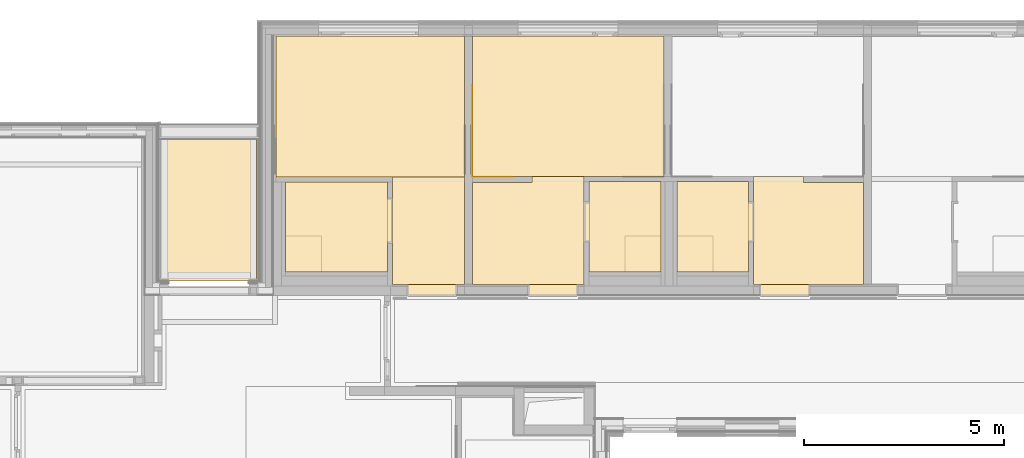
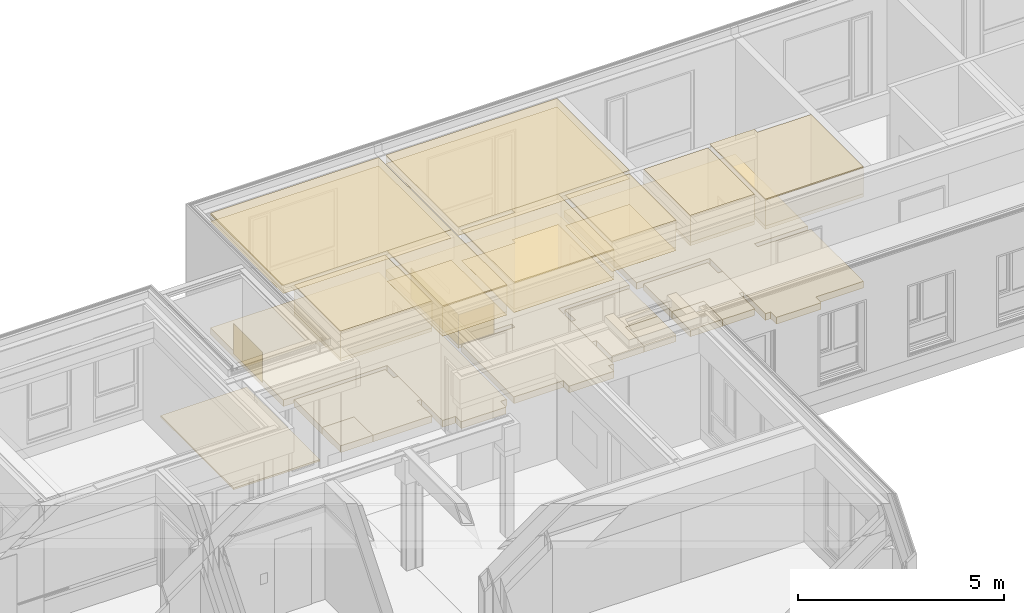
# One storey, part 188 of 207: 43 coverings.
"""IFC4 building model written with IfcOpenShell, lengths in metres."""

from ifc_helpers import new_model, entity, si_unit, converted_unit, derived_unit, frame, frame_2d, origin, origin_with_axes, place, context, subcontext, project, spatial, polyline, rectangle, outline, extrude, material, layer, layer_set, layer_usage, element, save


model = new_model("IFC4")

# Units and contexts
model_context = context("Model", 3, precision=1e-05, world=origin())
body_context = subcontext(model_context, "Body", "Model", "MODEL_VIEW")
ifc_project = project(units=[si_unit("LENGTHUNIT", "METRE"), si_unit("AREAUNIT", "SQUARE_METRE"), si_unit("VOLUMEUNIT", "CUBIC_METRE"), si_unit("MASSUNIT", "GRAM", prefix="KILO"), converted_unit("PLANEANGLEUNIT", "DEGREE", entity("IfcPlaneAngleMeasure", 0.0174532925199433), si_unit("PLANEANGLEUNIT", "RADIAN"), dimensions=[0, 0, 0, 0, 0, 0, 0]), derived_unit("THERMALTRANSMITTANCEUNIT", [(si_unit("POWERUNIT", "WATT"), 1), (si_unit("THERMODYNAMICTEMPERATUREUNIT", "KELVIN"), -1), (si_unit("LENGTHUNIT", "METRE"), -2)]), derived_unit("VOLUMETRICFLOWRATEUNIT", [(si_unit("LENGTHUNIT", "METRE"), 3), (converted_unit("TIMEUNIT", "hour", entity("IfcTimeMeasure", 3600.0), si_unit("TIMEUNIT", "SECOND"), dimensions=[0, 0, 1, 0, 0, 0, 0]), -1), (si_unit("LENGTHUNIT", "METRE"), -1)])], contexts=[model_context])

# Site, building, storey, space
site_placement = place(None, origin())
site = spatial("IfcSite", under=ifc_project, at=site_placement, Name="Psychiatrie Neubau Wunstorf", CompositionType="ELEMENT")
building_placement = place(site_placement, origin())
building = spatial("IfcBuilding", under=site, at=building_placement, Name="Neubau H2 Stationsgebäude", CompositionType="ELEMENT")
storey_placement = place(building_placement, frame((0.0, 0.0, -0.2)))
storey = spatial("IfcBuildingStorey", under=building, at=storey_placement, Name="H2 Ebene 0", CompositionType="ELEMENT", Elevation=-0.2)
space_1_placement = place(storey_placement, frame((81.225, 25.6995, 0.0)))
space_1 = spatial("IfcSpace", under=storey, at=space_1_placement, Name="WUN-H2-E00-070a", CompositionType="ELEMENT")

# Coverings
ifc_material_1 = material(Name="Fl1")
ifc_layer_1 = layer(ifc_material_1, 0.2)
ifc_layer_set_1 = layer_set([ifc_layer_1])
ifc_layer_usage_1 = layer_usage(ifc_layer_set_1, "AXIS3", "POSITIVE", 0.0)
covering_1_placement = place(space_1_placement, origin())
element("IfcCovering", 1, at=covering_1_placement, inside=space_1, material=ifc_layer_usage_1, Name="Fliesen", PredefinedType="FLOORING", context=body_context, shape_type="SweptSolid", body=[
    extrude(rectangle(XDim=0.125, YDim=1.01, at=frame_2d((-0.0625, -0.505), x_axis=(-1.0, 0.0))), frame((1.925, 1.76500000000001, 0.0), z_axis=(0.0, 0.0, 1.0), x_axis=(1.0, 0.0, 0.0)), (0.0, 0.0, 1.0), 0.2),
    extrude(outline(polyline([(0.0, 0.9), (0.899999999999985, 0.9), (0.899999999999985, 0.0), (1.79999999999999, 0.0), (1.80000000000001, 2.26500000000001), (0.0, 2.26500000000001), (0.0, 0.9)])), origin_with_axes(), (0.0, 0.0, 1.0), 0.2),
])
ifc_material_2 = material(Name="Fl2")
ifc_layer_2 = layer(ifc_material_2, 0.2)
ifc_layer_set_2 = layer_set([ifc_layer_2])
ifc_layer_usage_2 = layer_usage(ifc_layer_set_2, "AXIS3", "POSITIVE", 0.0)
covering_2_placement = place(space_1_placement, origin())
element("IfcCovering", 2, at=covering_2_placement, inside=space_1, material=ifc_layer_usage_2, Name="Fliesen Mosaik", PredefinedType="FLOORING", context=body_context, shape_type="SweptSolid", body=[
    extrude(rectangle(XDim=0.9, YDim=0.9, at=frame_2d((0.45, 0.45), x_axis=(1.0, 0.0))), origin_with_axes(), (0.0, 0.0, 1.0), 0.2),
])
ifc_material_3 = material()
ifc_layer_3 = layer(ifc_material_3, 0.036)
ifc_layer_set_3 = layer_set([ifc_layer_3])
ifc_layer_usage_3 = layer_usage(ifc_layer_set_3, "AXIS3", "POSITIVE", 0.0)
covering_3_placement = place(space_1_placement, frame((0.0, 0.0, 3.6)))
element("IfcCovering", 3, at=covering_3_placement, inside=space_1, material=ifc_layer_usage_3, Name="Gipsfaserplatten 2-lagig (BSK)", PredefinedType="CEILING", context=body_context, shape_type="SweptSolid", body=[
    extrude(rectangle(XDim=1.8, YDim=2.26500000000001, at=frame_2d((-0.899999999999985, -1.1325), x_axis=(-1.0, 0.0))), frame((1.8, 0.0, 0.0), z_axis=(0.0, 0.0, -1.0), x_axis=(1.0, 0.0, 0.0)), (0.0, 0.0, 1.0), 0.036),
])
ifc_material_4 = material(Name="Installationshöhe")
ifc_layer_4 = layer(ifc_material_4, 0.764)
ifc_layer_set_4 = layer_set([ifc_layer_4])
ifc_layer_usage_4 = layer_usage(ifc_layer_set_4, "AXIS3", "POSITIVE", 0.0)
covering_4_placement = place(space_1_placement, frame((0.0, 0.0, 3.564)))
element("IfcCovering", 4, at=covering_4_placement, inside=space_1, material=ifc_layer_usage_4, Name="Gipsfaserplatten 2-lagig (BSK)", PredefinedType="CEILING", context=body_context, shape_type="SweptSolid", body=[
    extrude(rectangle(XDim=1.8, YDim=2.26500000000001, at=frame_2d((-0.899999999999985, -1.1325), x_axis=(-1.0, 0.0))), frame((1.8, 0.0, 0.0), z_axis=(0.0, 0.0, -1.0), x_axis=(1.0, 0.0, 0.0)), (0.0, 0.0, 1.0), 0.764),
])
ifc_material_5 = material(Name="B")
ifc_layer_5 = layer(ifc_material_5, 0.1)
ifc_layer_set_5 = layer_set([ifc_layer_5])
ifc_layer_usage_5 = layer_usage(ifc_layer_set_5, "AXIS3", "POSITIVE", 0.0)
covering_5_placement = place(space_1_placement, frame((0.0, 0.0, 2.8)))
element("IfcCovering", 5, at=covering_5_placement, inside=space_1, material=ifc_layer_usage_5, Name="Gipskarton, imprägniert", PredefinedType="CEILING", context=body_context, shape_type="SweptSolid", body=[
    extrude(rectangle(XDim=1.8, YDim=2.26500000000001, at=frame_2d((-0.899999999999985, -1.1325), x_axis=(-1.0, 0.0))), frame((1.8, 0.0, 0.0), z_axis=(0.0, 0.0, -1.0), x_axis=(1.0, 0.0, 0.0)), (0.0, 0.0, 1.0), 0.1),
])
ifc_material_6 = material(Name="D1")
ifc_layer_6 = layer(ifc_material_6, 0.001)
ifc_layer_set_6 = layer_set([ifc_layer_6])
ifc_layer_usage_6 = layer_usage(ifc_layer_set_6, "AXIS3", "POSITIVE", 0.0)
covering_6_placement = place(space_1_placement, frame((0.0, 0.0, 2.7)))
element("IfcCovering", 6, at=covering_6_placement, inside=space_1, material=ifc_layer_usage_6, Name="Gipsfaserplatten 2-lagig (BSK)", PredefinedType="CEILING", context=body_context, shape_type="SweptSolid", body=[
    extrude(rectangle(XDim=1.8, YDim=2.26500000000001, at=frame_2d((-0.899999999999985, -1.1325), x_axis=(-1.0, 0.0))), frame((1.8, 0.0, 0.0), z_axis=(0.0, 0.0, -1.0), x_axis=(1.0, 0.0, 0.0)), (0.0, 0.0, 1.0), 0.001),
])

# Space
space_2_placement = place(storey_placement, frame((79.025, 25.6995, 0.0)))
space_2 = spatial("IfcSpace", under=storey, at=space_2_placement, Name="WUN-H2-E00-069a", CompositionType="ELEMENT")

# Coverings
ifc_material_7 = material(Name="Fl1")
ifc_layer_7 = layer(ifc_material_7, 0.2)
ifc_layer_set_7 = layer_set([ifc_layer_7])
ifc_layer_usage_7 = layer_usage(ifc_layer_set_7, "AXIS3", "POSITIVE", 0.0)
covering_7_placement = place(space_2_placement, frame((-0.124999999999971, 0.0, 0.0)))
element("IfcCovering", 7, at=covering_7_placement, inside=space_2, material=ifc_layer_usage_7, Name="Fliesen", PredefinedType="FLOORING", context=body_context, shape_type="SweptSolid", body=[
    extrude(rectangle(XDim=0.125, YDim=1.01, at=frame_2d((0.0625, 0.505), x_axis=(1.0, 0.0))), frame((0.0, 0.755000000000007, 0.0), z_axis=(0.0, 0.0, 1.0), x_axis=(1.0, 0.0, 0.0)), (0.0, 0.0, 1.0), 0.2),
    extrude(outline(polyline([(0.0, 0.0), (0.900000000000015, 0.0), (0.900000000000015, 0.900000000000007), (1.80000000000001, 0.900000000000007), (1.80000000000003, 2.26500000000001), (0.0, 2.26500000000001), (0.0, 0.0)])), frame((0.124999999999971, 0.0, 0.0), z_axis=(0.0, 0.0, 1.0), x_axis=(1.0, 0.0, 0.0)), (0.0, 0.0, 1.0), 0.2),
])
ifc_material_8 = material(Name="Fl2")
ifc_layer_8 = layer(ifc_material_8, 0.2)
ifc_layer_set_8 = layer_set([ifc_layer_8])
ifc_layer_usage_8 = layer_usage(ifc_layer_set_8, "AXIS3", "POSITIVE", 0.0)
covering_8_placement = place(space_2_placement, frame((0.900000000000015, 0.0, 0.0)))
element("IfcCovering", 8, at=covering_8_placement, inside=space_2, material=ifc_layer_usage_8, Name="Fliesen Mosaik", PredefinedType="FLOORING", context=body_context, shape_type="SweptSolid", body=[
    extrude(rectangle(XDim=0.9, YDim=0.9, at=frame_2d((-0.45, 0.45), x_axis=(0.0, 1.0))), frame((0.9, 0.0, 0.0), z_axis=(0.0, 0.0, 1.0), x_axis=(1.0, 0.0, 0.0)), (0.0, 0.0, 1.0), 0.2),
])
ifc_material_9 = material()
ifc_layer_9 = layer(ifc_material_9, 0.036)
ifc_layer_set_9 = layer_set([ifc_layer_9])
ifc_layer_usage_9 = layer_usage(ifc_layer_set_9, "AXIS3", "POSITIVE", 0.0)
covering_9_placement = place(space_2_placement, frame((0.0, 0.0, 3.6)))
element("IfcCovering", 9, at=covering_9_placement, inside=space_2, material=ifc_layer_usage_9, Name="Gipsfaserplatten 2-lagig (BSK)", PredefinedType="CEILING", context=body_context, shape_type="SweptSolid", body=[
    extrude(rectangle(XDim=1.8, YDim=2.26500000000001, at=frame_2d((0.899999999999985, 1.1325), x_axis=(1.0, 0.0))), frame((0.0, 2.26500000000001, 0.0), z_axis=(0.0, 0.0, -1.0), x_axis=(1.0, 0.0, 0.0)), (0.0, 0.0, 1.0), 0.036),
])
ifc_material_10 = material(Name="Installationshöhe")
ifc_layer_10 = layer(ifc_material_10, 0.764)
ifc_layer_set_10 = layer_set([ifc_layer_10])
ifc_layer_usage_10 = layer_usage(ifc_layer_set_10, "AXIS3", "POSITIVE", 0.0)
covering_10_placement = place(space_2_placement, frame((0.0, 0.0, 3.564)))
element("IfcCovering", 10, at=covering_10_placement, inside=space_2, material=ifc_layer_usage_10, Name="Gipsfaserplatten 2-lagig (BSK)", PredefinedType="CEILING", context=body_context, shape_type="SweptSolid", body=[
    extrude(rectangle(XDim=1.8, YDim=2.26500000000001, at=frame_2d((0.899999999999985, 1.1325), x_axis=(1.0, 0.0))), frame((0.0, 2.26500000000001, 0.0), z_axis=(0.0, 0.0, -1.0), x_axis=(1.0, 0.0, 0.0)), (0.0, 0.0, 1.0), 0.764),
])
ifc_material_11 = material(Name="B")
ifc_layer_11 = layer(ifc_material_11, 0.1)
ifc_layer_set_11 = layer_set([ifc_layer_11])
ifc_layer_usage_11 = layer_usage(ifc_layer_set_11, "AXIS3", "POSITIVE", 0.0)
covering_11_placement = place(space_2_placement, frame((0.0, 0.0, 2.8)))
element("IfcCovering", 11, at=covering_11_placement, inside=space_2, material=ifc_layer_usage_11, Name="Gipskarton, imprägniert", PredefinedType="CEILING", context=body_context, shape_type="SweptSolid", body=[
    extrude(rectangle(XDim=1.8, YDim=2.26500000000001, at=frame_2d((0.899999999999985, 1.1325), x_axis=(1.0, 0.0))), frame((0.0, 2.26500000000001, 0.0), z_axis=(0.0, 0.0, -1.0), x_axis=(1.0, 0.0, 0.0)), (0.0, 0.0, 1.0), 0.1),
])
ifc_material_12 = material(Name="D1")
ifc_layer_12 = layer(ifc_material_12, 0.001)
ifc_layer_set_12 = layer_set([ifc_layer_12])
ifc_layer_usage_12 = layer_usage(ifc_layer_set_12, "AXIS3", "POSITIVE", 0.0)
covering_12_placement = place(space_2_placement, frame((0.0, 0.0, 2.7)))
element("IfcCovering", 12, at=covering_12_placement, inside=space_2, material=ifc_layer_usage_12, Name="Gipsfaserplatten 2-lagig (BSK)", PredefinedType="CEILING", context=body_context, shape_type="SweptSolid", body=[
    extrude(rectangle(XDim=1.8, YDim=2.26500000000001, at=frame_2d((0.899999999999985, 1.1325), x_axis=(1.0, 0.0))), frame((0.0, 2.26500000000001, 0.0), z_axis=(0.0, 0.0, -1.0), x_axis=(1.0, 0.0, 0.0)), (0.0, 0.0, 1.0), 0.001),
])

# Space
space_3_placement = place(storey_placement, frame((71.421, 25.6995, 0.0)))
space_3 = spatial("IfcSpace", under=storey, at=space_3_placement, Name="WUN-H2-E00-068a", CompositionType="ELEMENT")

# Coverings
ifc_material_13 = material(Name="Fl1")
ifc_layer_13 = layer(ifc_material_13, 0.2)
ifc_layer_set_13 = layer_set([ifc_layer_13])
ifc_layer_usage_13 = layer_usage(ifc_layer_set_13, "AXIS3", "POSITIVE", 0.0)
covering_13_placement = place(space_3_placement, origin())
element("IfcCovering", 13, at=covering_13_placement, inside=space_3, material=ifc_layer_usage_13, Name="Fliesen", PredefinedType="FLOORING", context=body_context, shape_type="SweptSolid", body=[
    extrude(rectangle(XDim=0.125, YDim=1.135, at=frame_2d((-0.0625, -0.5675), x_axis=(-1.0, 0.0))), frame((2.67900000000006, 1.85799999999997, 0.0), z_axis=(0.0, 0.0, 1.0), x_axis=(1.0, 0.0, 0.0)), (0.0, 0.0, 1.0), 0.2),
    extrude(outline(polyline([(0.900000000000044, 0.0), (2.55400000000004, 0.0), (2.55400000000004, 2.25799999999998), (0.0, 2.25799999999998), (0.0, 0.899999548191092), (0.900000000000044, 0.899999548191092), (0.900000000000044, 0.0)])), origin_with_axes(), (0.0, 0.0, 1.0), 0.2),
])
ifc_material_14 = material(Name="Fl2")
ifc_layer_14 = layer(ifc_material_14, 0.2)
ifc_layer_set_14 = layer_set([ifc_layer_14])
ifc_layer_usage_14 = layer_usage(ifc_layer_set_14, "AXIS3", "POSITIVE", 0.0)
covering_14_placement = place(space_3_placement, frame((0.0, -4.51808908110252e-07, 0.0)))
element("IfcCovering", 14, at=covering_14_placement, inside=space_3, material=ifc_layer_usage_14, Name="Fliesen Mosaik", PredefinedType="FLOORING", context=body_context, shape_type="SweptSolid", body=[
    extrude(rectangle(XDim=0.9, YDim=0.9, at=frame_2d((0.45, -0.45), x_axis=(0.0, -1.0))), frame((0.0, 0.9, 0.0), z_axis=(0.0, 0.0, 1.0), x_axis=(1.0, 0.0, 0.0)), (0.0, 0.0, 1.0), 0.2),
])
ifc_material_15 = material()
ifc_layer_15 = layer(ifc_material_15, 0.036)
ifc_layer_set_15 = layer_set([ifc_layer_15])
ifc_layer_usage_15 = layer_usage(ifc_layer_set_15, "AXIS3", "POSITIVE", 0.0)
covering_15_placement = place(space_3_placement, frame((0.0, 0.0, 3.6)))
element("IfcCovering", 15, at=covering_15_placement, inside=space_3, material=ifc_layer_usage_15, Name="Gipsfaserplatten 2-lagig (BSK)", PredefinedType="CEILING", context=body_context, shape_type="SweptSolid", body=[
    extrude(rectangle(XDim=2.25799999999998, YDim=2.55400000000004, at=frame_2d((1.27700000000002, -1.12899999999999), x_axis=(0.0, -1.0))), frame((0.0, 0.0, 0.0), z_axis=(0.0, 0.0, -1.0), x_axis=(1.0, 0.0, 0.0)), (0.0, 0.0, 1.0), 0.036),
])
ifc_material_16 = material(Name="Installationshöhe")
ifc_layer_16 = layer(ifc_material_16, 0.764)
ifc_layer_set_16 = layer_set([ifc_layer_16])
ifc_layer_usage_16 = layer_usage(ifc_layer_set_16, "AXIS3", "POSITIVE", 0.0)
covering_16_placement = place(space_3_placement, frame((0.0, 0.0, 3.564)))
element("IfcCovering", 16, at=covering_16_placement, inside=space_3, material=ifc_layer_usage_16, Name="Gipsfaserplatten 2-lagig (BSK)", PredefinedType="CEILING", context=body_context, shape_type="SweptSolid", body=[
    extrude(rectangle(XDim=2.25799999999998, YDim=2.55400000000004, at=frame_2d((1.27700000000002, -1.12899999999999), x_axis=(0.0, -1.0))), frame((0.0, 0.0, 0.0), z_axis=(0.0, 0.0, -1.0), x_axis=(1.0, 0.0, 0.0)), (0.0, 0.0, 1.0), 0.764),
])
ifc_material_17 = material(Name="B")
ifc_layer_17 = layer(ifc_material_17, 0.1)
ifc_layer_set_17 = layer_set([ifc_layer_17])
ifc_layer_usage_17 = layer_usage(ifc_layer_set_17, "AXIS3", "POSITIVE", 0.0)
covering_17_placement = place(space_3_placement, frame((0.0, 0.0, 2.8)))
element("IfcCovering", 17, at=covering_17_placement, inside=space_3, material=ifc_layer_usage_17, Name="Gipskarton, imprägniert", PredefinedType="CEILING", context=body_context, shape_type="SweptSolid", body=[
    extrude(rectangle(XDim=2.25799999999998, YDim=2.55400000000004, at=frame_2d((1.27700000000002, -1.12899999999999), x_axis=(0.0, -1.0))), frame((0.0, 0.0, 0.0), z_axis=(0.0, 0.0, -1.0), x_axis=(1.0, 0.0, 0.0)), (0.0, 0.0, 1.0), 0.1),
])
ifc_material_18 = material(Name="D1")
ifc_layer_18 = layer(ifc_material_18, 0.001)
ifc_layer_set_18 = layer_set([ifc_layer_18])
ifc_layer_usage_18 = layer_usage(ifc_layer_set_18, "AXIS3", "POSITIVE", 0.0)
covering_18_placement = place(space_3_placement, frame((0.0, 0.0, 2.7)))
element("IfcCovering", 18, at=covering_18_placement, inside=space_3, material=ifc_layer_usage_18, Name="Gipsfaserplatten 2-lagig (BSK)", PredefinedType="CEILING", context=body_context, shape_type="SweptSolid", body=[
    extrude(rectangle(XDim=2.25799999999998, YDim=2.55400000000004, at=frame_2d((1.27700000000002, -1.12899999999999), x_axis=(0.0, -1.0))), frame((0.0, 0.0, 0.0), z_axis=(0.0, 0.0, -1.0), x_axis=(1.0, 0.0, 0.0)), (0.0, 0.0, 1.0), 0.001),
])

# Space
space_4_placement = place(storey_placement, frame((68.291, 25.4740036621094, 0.13)))
space_4 = spatial("IfcSpace", under=storey, at=space_4_placement, Name="WUN-H2-E00-L02", CompositionType="ELEMENT")

# Covering
ifc_material_19 = material(Name="BP1")
ifc_layer_19 = layer(ifc_material_19, 0.05)
ifc_layer_set_19 = layer_set([ifc_layer_19])
ifc_layer_usage_19 = layer_usage(ifc_layer_set_19, "AXIS3", "POSITIVE", 0.0)
covering_19_placement = place(space_4_placement, origin())
element("IfcCovering", 19, at=covering_19_placement, inside=space_4, material=ifc_layer_usage_19, Name="Betonplatten 40x40x5", PredefinedType="FLOORING", context=body_context, shape_type="SweptSolid", body=[
    extrude(rectangle(XDim=3.55349623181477, YDim=2.418, at=frame_2d((1.209, -1.77674811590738), x_axis=(0.0, -1.0))), frame((0.0, 3.55349623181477, 0.0), z_axis=(0.0, 0.0, 1.0), x_axis=(1.0, 0.0, 0.0)), (0.0, 0.0, 1.0), 0.05),
])

# Space
space_5_placement = place(storey_placement, frame((71.186, 25.3895, 0.0)))
space_5 = spatial("IfcSpace", under=storey, at=space_5_placement, Name="WUN-H2-E00-068", CompositionType="ELEMENT")

# Coverings
ifc_material_20 = material(Name="84")
ifc_layer_20 = layer(ifc_material_20, 0.001)
ifc_layer_set_20 = layer_set([ifc_layer_20])
ifc_layer_usage_20 = layer_usage(ifc_layer_set_20, "AXIS3", "POSITIVE", 0.0)
covering_20_placement = place(space_5_placement, frame((0.0, 3.70059502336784, 0.1)))
element("IfcCovering", 20, at=covering_20_placement, inside=space_5, material=ifc_layer_usage_20, Name="Acrobyn", PredefinedType="CLADDING", context=body_context, shape_type="SweptSolid", body=[
    extrude(rectangle(XDim=0.9, YDim=1.4, at=frame_2d((-0.7, -0.45), x_axis=(0.0, -1.0))), frame((0.0, 0.0, 0.0), z_axis=(1.0, 0.0, 0.0), x_axis=(0.0, -1.0, 0.0)), (0.0, 0.0, 1.0), 0.001),
])
ifc_material_21 = material(Name="Ku1")
ifc_layer_21 = layer(ifc_material_21, 0.2)
ifc_layer_set_21 = layer_set([ifc_layer_21])
ifc_layer_usage_21 = layer_usage(ifc_layer_set_21, "AXIS3", "POSITIVE", 0.0)
covering_21_placement = place(space_5_placement, frame((0.0, -0.272000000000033, 0.0)))
element("IfcCovering", 21, at=covering_21_placement, inside=space_5, material=ifc_layer_usage_21, Name="PVC Bahnenware Holzoptik", PredefinedType="FLOORING", context=body_context, shape_type="SweptSolid", body=[
    extrude(rectangle(XDim=0.272, YDim=1.26, at=frame_2d((0.63, -0.136), x_axis=(0.0, -1.0))), frame((3.279, 0.272, 0.0), z_axis=(0.0, 0.0, 1.0), x_axis=(1.0, 0.0, 0.0)), (0.0, 0.0, 1.0), 0.2),
    extrude(outline(polyline([(2.914, 0.0), (4.714, 0.0), (4.714, 6.22449999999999), (0.0, 6.22449999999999), (0.0, 2.69299999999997), (2.914, 2.69299999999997), (2.914, 0.0)])), frame((0.0, 0.272000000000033, 0.0), z_axis=(0.0, 0.0, 1.0), x_axis=(1.0, 0.0, 0.0)), (0.0, 0.0, 1.0), 0.2),
])
ifc_material_22 = material()
ifc_layer_22 = layer(ifc_material_22, 0.036)
ifc_layer_set_22 = layer_set([ifc_layer_22])
ifc_layer_usage_22 = layer_usage(ifc_layer_set_22, "AXIS3", "POSITIVE", 0.0)
covering_22_placement = place(space_5_placement, frame((2.914, 0.0, 3.6)))
element("IfcCovering", 22, at=covering_22_placement, inside=space_5, material=ifc_layer_usage_22, Name="Gipsfaserplatten 2-lagig (BSK)", PredefinedType="CEILING", context=body_context, shape_type="SweptSolid", body=[
    extrude(rectangle(XDim=1.8, YDim=2.69299999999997, at=frame_2d((0.9, 1.34649999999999), x_axis=(1.0, 0.0))), frame((0.0, 2.69299999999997, 0.0), z_axis=(0.0, 0.0, -1.0), x_axis=(1.0, 0.0, 0.0)), (0.0, 0.0, 1.0), 0.036),
])
ifc_material_23 = material(Name="Installationshöhe")
ifc_layer_23 = layer(ifc_material_23, 0.764)
ifc_layer_set_23 = layer_set([ifc_layer_23])
ifc_layer_usage_23 = layer_usage(ifc_layer_set_23, "AXIS3", "POSITIVE", 0.0)
covering_23_placement = place(space_5_placement, frame((2.914, 0.0, 3.564)))
element("IfcCovering", 23, at=covering_23_placement, inside=space_5, material=ifc_layer_usage_23, Name="Gipsfaserplatten 2-lagig (BSK)", PredefinedType="CEILING", context=body_context, shape_type="SweptSolid", body=[
    extrude(rectangle(XDim=1.8, YDim=2.69299999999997, at=frame_2d((0.9, 1.34649999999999), x_axis=(1.0, 0.0))), frame((0.0, 2.69299999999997, 0.0), z_axis=(0.0, 0.0, -1.0), x_axis=(1.0, 0.0, 0.0)), (0.0, 0.0, 1.0), 0.764),
])
ifc_material_24 = material(Name="A1")
ifc_layer_24 = layer(ifc_material_24, 0.1)
ifc_layer_set_24 = layer_set([ifc_layer_24])
ifc_layer_usage_24 = layer_usage(ifc_layer_set_24, "AXIS3", "POSITIVE", 0.0)
covering_24_placement = place(space_5_placement, frame((2.914, 0.0, 2.8)))
element("IfcCovering", 24, at=covering_24_placement, inside=space_5, material=ifc_layer_usage_24, Name="Gipsfaserplatten 2-lagig (BSK)", PredefinedType="CEILING", context=body_context, shape_type="SweptSolid", body=[
    extrude(rectangle(XDim=1.8, YDim=2.69299999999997, at=frame_2d((0.9, 1.34649999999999), x_axis=(1.0, 0.0))), frame((0.0, 2.69299999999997, 0.0), z_axis=(0.0, 0.0, -1.0), x_axis=(1.0, 0.0, 0.0)), (0.0, 0.0, 1.0), 0.1),
])
ifc_material_25 = material(Name="D1")
ifc_layer_25 = layer(ifc_material_25, 0.001)
ifc_layer_set_25 = layer_set([ifc_layer_25])
ifc_layer_usage_25 = layer_usage(ifc_layer_set_25, "AXIS3", "POSITIVE", 0.0)
covering_25_placement = place(space_5_placement, frame((2.914, 0.0, 2.7)))
element("IfcCovering", 25, at=covering_25_placement, inside=space_5, material=ifc_layer_usage_25, Name="Gipsfaserplatten 2-lagig (BSK)", PredefinedType="CEILING", context=body_context, shape_type="SweptSolid", body=[
    extrude(rectangle(XDim=1.8, YDim=2.69299999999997, at=frame_2d((0.9, 1.34649999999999), x_axis=(1.0, 0.0))), frame((0.0, 2.69299999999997, 0.0), z_axis=(0.0, 0.0, -1.0), x_axis=(1.0, 0.0, 0.0)), (0.0, 0.0, 1.0), 0.001),
])
ifc_material_26 = material()
ifc_layer_26 = layer(ifc_material_26, 0.036)
ifc_layer_set_26 = layer_set([ifc_layer_26])
ifc_layer_usage_26 = layer_usage(ifc_layer_set_26, "AXIS3", "POSITIVE", 0.0)
covering_26_placement = place(space_5_placement, frame((0.0, 2.69299999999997, 3.6)))
element("IfcCovering", 26, at=covering_26_placement, inside=space_5, material=ifc_layer_usage_26, Name="Gipsfaserplatten 2-lagig (BSK)", PredefinedType="CEILING", context=body_context, shape_type="SweptSolid", body=[
    extrude(rectangle(XDim=4.714, YDim=3.53150000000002, at=frame_2d((-2.357, -1.76575000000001), x_axis=(-1.0, 0.0))), frame((4.714, 0.0, 0.0), z_axis=(0.0, 0.0, -1.0), x_axis=(1.0, 0.0, 0.0)), (0.0, 0.0, 1.0), 0.036),
])
ifc_material_27 = material(Name="Installationshöhe")
ifc_layer_27 = layer(ifc_material_27, 0.114)
ifc_layer_set_27 = layer_set([ifc_layer_27])
ifc_layer_usage_27 = layer_usage(ifc_layer_set_27, "AXIS3", "POSITIVE", 0.0)
covering_27_placement = place(space_5_placement, frame((0.0, 2.69299999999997, 3.564)))
element("IfcCovering", 27, at=covering_27_placement, inside=space_5, material=ifc_layer_usage_27, Name="Gipsfaserplatten 2-lagig (BSK)", PredefinedType="CEILING", context=body_context, shape_type="SweptSolid", body=[
    extrude(rectangle(XDim=4.714, YDim=3.53150000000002, at=frame_2d((-2.357, -1.76575000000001), x_axis=(-1.0, 0.0))), frame((4.714, 0.0, 0.0), z_axis=(0.0, 0.0, -1.0), x_axis=(1.0, 0.0, 0.0)), (0.0, 0.0, 1.0), 0.114),
])
ifc_material_28 = material(Name="A1")
ifc_layer_28 = layer(ifc_material_28, 0.1)
ifc_layer_set_28 = layer_set([ifc_layer_28])
ifc_layer_usage_28 = layer_usage(ifc_layer_set_28, "AXIS3", "POSITIVE", 0.0)
covering_28_placement = place(space_5_placement, frame((0.0, 2.69299999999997, 3.45)))
element("IfcCovering", 28, at=covering_28_placement, inside=space_5, material=ifc_layer_usage_28, Name="Gipsfaserplatten 2-lagig (BSK)", PredefinedType="CEILING", context=body_context, shape_type="SweptSolid", body=[
    extrude(rectangle(XDim=4.714, YDim=3.53150000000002, at=frame_2d((-2.357, -1.76575000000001), x_axis=(-1.0, 0.0))), frame((4.714, 0.0, 0.0), z_axis=(0.0, 0.0, -1.0), x_axis=(1.0, 0.0, 0.0)), (0.0, 0.0, 1.0), 0.1),
])
ifc_material_29 = material(Name="D1")
ifc_layer_29 = layer(ifc_material_29, 0.001)
ifc_layer_set_29 = layer_set([ifc_layer_29])
ifc_layer_usage_29 = layer_usage(ifc_layer_set_29, "AXIS3", "POSITIVE", 0.0)
covering_29_placement = place(space_5_placement, frame((0.0, 2.69299999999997, 3.35)))
element("IfcCovering", 29, at=covering_29_placement, inside=space_5, material=ifc_layer_usage_29, Name="Gipsfaserplatten 2-lagig (BSK)", PredefinedType="CEILING", context=body_context, shape_type="SweptSolid", body=[
    extrude(rectangle(XDim=4.714, YDim=3.53150000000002, at=frame_2d((-2.357, -1.76575000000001), x_axis=(-1.0, 0.0))), frame((4.714, 0.0, 0.0), z_axis=(0.0, 0.0, -1.0), x_axis=(1.0, 0.0, 0.0)), (0.0, 0.0, 1.0), 0.001),
])

# Space
space_6_placement = place(storey_placement, frame((76.1, 25.3895, 0.0)))
space_6 = spatial("IfcSpace", under=storey, at=space_6_placement, Name="WUN-H2-E00-069", CompositionType="ELEMENT")

# Coverings
ifc_material_30 = material(Name="84")
ifc_layer_30 = layer(ifc_material_30, 0.001)
ifc_layer_set_30 = layer_set([ifc_layer_30])
ifc_layer_usage_30 = layer_usage(ifc_layer_set_30, "AXIS3", "POSITIVE", 0.0)
covering_30_placement = place(space_6_placement, frame((0.0, 2.7, 0.1)))
element("IfcCovering", 30, at=covering_30_placement, inside=space_6, material=ifc_layer_usage_30, Name="Acrobyn", PredefinedType="CLADDING", context=body_context, shape_type="SweptSolid", body=[
    extrude(rectangle(XDim=2.3, YDim=0.9, at=frame_2d((1.15, -0.45), x_axis=(1.0, 0.0))), frame((0.0, 2.3, 0.0), z_axis=(1.0, 0.0, 0.0), x_axis=(0.0, -1.0, 0.0)), (0.0, 0.0, 1.0), 0.001),
    extrude(rectangle(XDim=1.0, YDim=0.9, at=frame_2d((0.5, -0.45), x_axis=(1.0, 0.0))), frame((0.0, 0.0, 0.0), z_axis=(0.0, 1.0, 0.0), x_axis=(1.0, 0.0, 0.0)), (0.0, 0.0, 1.0), 0.001),
])
ifc_material_31 = material(Name="Ku1")
ifc_layer_31 = layer(ifc_material_31, 0.2)
ifc_layer_set_31 = layer_set([ifc_layer_31])
ifc_layer_usage_31 = layer_usage(ifc_layer_set_31, "AXIS3", "POSITIVE", 0.0)
covering_31_placement = place(space_6_placement, frame((0.0, -0.272000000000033, 0.0)))
element("IfcCovering", 31, at=covering_31_placement, inside=space_6, material=ifc_layer_usage_31, Name="PVC Bahnenware Holzoptik", PredefinedType="FLOORING", context=body_context, shape_type="SweptSolid", body=[
    extrude(rectangle(XDim=0.272, YDim=1.26, at=frame_2d((0.63, -0.136), x_axis=(0.0, -1.0))), frame((1.39, 0.272, 0.0), z_axis=(0.0, 0.0, 1.0), x_axis=(1.0, 0.0, 0.0)), (0.0, 0.0, 1.0), 0.2),
    extrude(outline(polyline([(1.5, 2.55), (0.0, 2.55), (0.0, 0.0), (2.8, 0.0), (2.8, 2.69999999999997), (4.8, 2.69999999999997), (4.8, 6.22449999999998), (0.0, 6.22449999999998), (0.0, 2.7), (1.5, 2.7), (1.5, 2.55)])), frame((0.0, 0.272000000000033, 0.0), z_axis=(0.0, 0.0, 1.0), x_axis=(1.0, 0.0, 0.0)), (0.0, 0.0, 1.0), 0.2),
])
ifc_material_32 = material()
ifc_layer_32 = layer(ifc_material_32, 0.036)
ifc_layer_set_32 = layer_set([ifc_layer_32])
ifc_layer_usage_32 = layer_usage(ifc_layer_set_32, "AXIS3", "POSITIVE", 0.0)
covering_32_placement = place(space_6_placement, frame((0.0, 0.0, 3.6)))
element("IfcCovering", 32, at=covering_32_placement, inside=space_6, material=ifc_layer_usage_32, Name="Gipsfaserplatten 2-lagig (BSK)", PredefinedType="CEILING", context=body_context, shape_type="SweptSolid", body=[
    extrude(outline(polyline([(0.0, 0.15), (1.5, 0.15), (1.5, 0.0), (2.79999999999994, 0.0), (2.8, 2.70000000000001), (0.0, 2.70000000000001), (0.0, 0.15)])), frame((0.0, 2.70000000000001, 0.0), z_axis=(0.0, 0.0, -1.0), x_axis=(1.0, 0.0, 0.0)), (0.0, 0.0, 1.0), 0.036),
])
ifc_material_33 = material(Name="Installationshöhe")
ifc_layer_33 = layer(ifc_material_33, 0.764)
ifc_layer_set_33 = layer_set([ifc_layer_33])
ifc_layer_usage_33 = layer_usage(ifc_layer_set_33, "AXIS3", "POSITIVE", 0.0)
covering_33_placement = place(space_6_placement, frame((0.0, 0.0, 3.564)))
element("IfcCovering", 33, at=covering_33_placement, inside=space_6, material=ifc_layer_usage_33, Name="Gipsfaserplatten 2-lagig (BSK)", PredefinedType="CEILING", context=body_context, shape_type="SweptSolid", body=[
    extrude(outline(polyline([(0.0, 0.15), (1.5, 0.15), (1.5, 0.0), (2.79999999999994, 0.0), (2.8, 2.70000000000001), (0.0, 2.70000000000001), (0.0, 0.15)])), frame((0.0, 2.70000000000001, 0.0), z_axis=(0.0, 0.0, -1.0), x_axis=(1.0, 0.0, 0.0)), (0.0, 0.0, 1.0), 0.764),
])
ifc_material_34 = material(Name="A1")
ifc_layer_34 = layer(ifc_material_34, 0.1)
ifc_layer_set_34 = layer_set([ifc_layer_34])
ifc_layer_usage_34 = layer_usage(ifc_layer_set_34, "AXIS3", "POSITIVE", 0.0)
covering_34_placement = place(space_6_placement, frame((0.0, 0.0, 2.8)))
element("IfcCovering", 34, at=covering_34_placement, inside=space_6, material=ifc_layer_usage_34, Name="Gipsfaserplatten 2-lagig (BSK)", PredefinedType="CEILING", context=body_context, shape_type="SweptSolid", body=[
    extrude(outline(polyline([(0.0, 0.15), (1.5, 0.15), (1.5, 0.0), (2.79999999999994, 0.0), (2.8, 2.70000000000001), (0.0, 2.70000000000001), (0.0, 0.15)])), frame((0.0, 2.70000000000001, 0.0), z_axis=(0.0, 0.0, -1.0), x_axis=(1.0, 0.0, 0.0)), (0.0, 0.0, 1.0), 0.1),
])
ifc_material_35 = material(Name="D1")
ifc_layer_35 = layer(ifc_material_35, 0.001)
ifc_layer_set_35 = layer_set([ifc_layer_35])
ifc_layer_usage_35 = layer_usage(ifc_layer_set_35, "AXIS3", "POSITIVE", 0.0)
covering_35_placement = place(space_6_placement, frame((0.0, 0.0, 2.7)))
element("IfcCovering", 35, at=covering_35_placement, inside=space_6, material=ifc_layer_usage_35, Name="Gipsfaserplatten 2-lagig (BSK)", PredefinedType="CEILING", context=body_context, shape_type="SweptSolid", body=[
    extrude(outline(polyline([(0.0, 0.15), (1.5, 0.15), (1.5, 0.0), (2.79999999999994, 0.0), (2.8, 2.70000000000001), (0.0, 2.70000000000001), (0.0, 0.15)])), frame((0.0, 2.70000000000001, 0.0), z_axis=(0.0, 0.0, -1.0), x_axis=(1.0, 0.0, 0.0)), (0.0, 0.0, 1.0), 0.001),
])
ifc_material_36 = material()
ifc_layer_36 = layer(ifc_material_36, 0.036)
ifc_layer_set_36 = layer_set([ifc_layer_36])
ifc_layer_usage_36 = layer_usage(ifc_layer_set_36, "AXIS3", "POSITIVE", 0.0)
covering_36_placement = place(space_6_placement, frame((0.0, 2.69999999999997, 3.6)))
element("IfcCovering", 36, at=covering_36_placement, inside=space_6, material=ifc_layer_usage_36, Name="Gipsfaserplatten 2-lagig (BSK)", PredefinedType="CEILING", context=body_context, shape_type="SweptSolid", body=[
    extrude(rectangle(XDim=3.52449999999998, YDim=4.8, at=frame_2d((2.4, -1.76224999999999), x_axis=(0.0, -1.0))), frame((0.0, 0.0, 0.0), z_axis=(0.0, 0.0, -1.0), x_axis=(1.0, 0.0, 0.0)), (0.0, 0.0, 1.0), 0.036),
])
ifc_material_37 = material(Name="Installationshöhe")
ifc_layer_37 = layer(ifc_material_37, 0.114)
ifc_layer_set_37 = layer_set([ifc_layer_37])
ifc_layer_usage_37 = layer_usage(ifc_layer_set_37, "AXIS3", "POSITIVE", 0.0)
covering_37_placement = place(space_6_placement, frame((0.0, 2.69999999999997, 3.564)))
element("IfcCovering", 37, at=covering_37_placement, inside=space_6, material=ifc_layer_usage_37, Name="Gipsfaserplatten 2-lagig (BSK)", PredefinedType="CEILING", context=body_context, shape_type="SweptSolid", body=[
    extrude(rectangle(XDim=3.52449999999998, YDim=4.8, at=frame_2d((2.4, -1.76224999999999), x_axis=(0.0, -1.0))), frame((0.0, 0.0, 0.0), z_axis=(0.0, 0.0, -1.0), x_axis=(1.0, 0.0, 0.0)), (0.0, 0.0, 1.0), 0.114),
])
ifc_material_38 = material(Name="A1")
ifc_layer_38 = layer(ifc_material_38, 0.1)
ifc_layer_set_38 = layer_set([ifc_layer_38])
ifc_layer_usage_38 = layer_usage(ifc_layer_set_38, "AXIS3", "POSITIVE", 0.0)
covering_38_placement = place(space_6_placement, frame((0.0, 2.69999999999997, 3.45)))
element("IfcCovering", 38, at=covering_38_placement, inside=space_6, material=ifc_layer_usage_38, Name="Gipsfaserplatten 2-lagig (BSK)", PredefinedType="CEILING", context=body_context, shape_type="SweptSolid", body=[
    extrude(rectangle(XDim=3.52449999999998, YDim=4.8, at=frame_2d((2.4, -1.76224999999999), x_axis=(0.0, -1.0))), frame((0.0, 0.0, 0.0), z_axis=(0.0, 0.0, -1.0), x_axis=(1.0, 0.0, 0.0)), (0.0, 0.0, 1.0), 0.1),
])
ifc_material_39 = material(Name="D1")
ifc_layer_39 = layer(ifc_material_39, 0.001)
ifc_layer_set_39 = layer_set([ifc_layer_39])
ifc_layer_usage_39 = layer_usage(ifc_layer_set_39, "AXIS3", "POSITIVE", 0.0)
covering_39_placement = place(space_6_placement, frame((0.0, 2.69999999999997, 3.35)))
element("IfcCovering", 39, at=covering_39_placement, inside=space_6, material=ifc_layer_usage_39, Name="Gipsfaserplatten 2-lagig (BSK)", PredefinedType="CEILING", context=body_context, shape_type="SweptSolid", body=[
    extrude(rectangle(XDim=3.52449999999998, YDim=4.8, at=frame_2d((2.4, -1.76224999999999), x_axis=(0.0, -1.0))), frame((0.0, 0.0, 0.0), z_axis=(0.0, 0.0, -1.0), x_axis=(1.0, 0.0, 0.0)), (0.0, 0.0, 1.0), 0.001),
])

# Space
space_7_placement = place(storey_placement, frame((81.1, 25.3895, 0.0)))
space_7 = spatial("IfcSpace", under=storey, at=space_7_placement, Name="WUN-H2-E00-070", CompositionType="ELEMENT")

# Coverings
ifc_material_40 = material(Name="Ku1")
ifc_layer_40 = layer(ifc_material_40, 0.2)
ifc_layer_set_40 = layer_set([ifc_layer_40])
ifc_layer_usage_40 = layer_usage(ifc_layer_set_40, "AXIS3", "POSITIVE", 0.0)
covering_40_placement = place(space_7_placement, frame((0.0, -0.272000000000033, 0.0)))
element("IfcCovering", 40, at=covering_40_placement, inside=space_7, material=ifc_layer_usage_40, Name="PVC Bahnenware Holzoptik", PredefinedType="FLOORING", context=body_context, shape_type="SweptSolid", body=[
    extrude(rectangle(XDim=0.272, YDim=1.26, at=frame_2d((0.63, -0.136), x_axis=(0.0, -1.0))), frame((2.2, 0.272, 0.0), z_axis=(0.0, 0.0, 1.0), x_axis=(1.0, 0.0, 0.0)), (0.0, 0.0, 1.0), 0.2),
    extrude(outline(polyline([(3.29999999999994, 2.7), (4.79999999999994, 2.7), (4.8, 6.22449999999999), (0.0, 6.22449999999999), (0.0, 2.69999999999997), (2.05, 2.69999999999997), (2.05, 0.0), (4.8, 0.0), (4.79999999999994, 2.55), (3.29999999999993, 2.55), (3.29999999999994, 2.7)])), frame((0.0, 0.272000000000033, 0.0), z_axis=(0.0, 0.0, 1.0), x_axis=(1.0, 0.0, 0.0)), (0.0, 0.0, 1.0), 0.2),
])
ifc_material_41 = material()
ifc_layer_41 = layer(ifc_material_41, 0.036)
ifc_layer_set_41 = layer_set([ifc_layer_41])
ifc_layer_usage_41 = layer_usage(ifc_layer_set_41, "AXIS3", "POSITIVE", 0.0)
covering_41_placement = place(space_7_placement, frame((2.05, 0.0, 3.6)))
element("IfcCovering", 41, at=covering_41_placement, inside=space_7, material=ifc_layer_usage_41, Name="Gipsfaserplatten 2-lagig (BSK)", PredefinedType="CEILING", context=body_context, shape_type="SweptSolid", body=[
    extrude(outline(polyline([(2.75, 2.69999999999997), (0.0, 2.69999999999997), (0.0, 0.0), (1.24999999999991, 0.0), (1.24999999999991, 0.149999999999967), (2.74999999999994, 0.149999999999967), (2.75, 2.69999999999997)])), frame((0.0, 2.69999999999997, 0.0), z_axis=(0.0, 0.0, -1.0), x_axis=(1.0, 0.0, 0.0)), (0.0, 0.0, 1.0), 0.036),
])
ifc_material_42 = material(Name="Installationshöhe")
ifc_layer_42 = layer(ifc_material_42, 0.764)
ifc_layer_set_42 = layer_set([ifc_layer_42])
ifc_layer_usage_42 = layer_usage(ifc_layer_set_42, "AXIS3", "POSITIVE", 0.0)
covering_42_placement = place(space_7_placement, frame((2.05, 0.0, 3.564)))
element("IfcCovering", 42, at=covering_42_placement, inside=space_7, material=ifc_layer_usage_42, Name="Gipsfaserplatten 2-lagig (BSK)", PredefinedType="CEILING", context=body_context, shape_type="SweptSolid", body=[
    extrude(outline(polyline([(2.75, 2.69999999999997), (0.0, 2.69999999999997), (0.0, 0.0), (1.24999999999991, 0.0), (1.24999999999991, 0.149999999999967), (2.74999999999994, 0.149999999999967), (2.75, 2.69999999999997)])), frame((0.0, 2.69999999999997, 0.0), z_axis=(0.0, 0.0, -1.0), x_axis=(1.0, 0.0, 0.0)), (0.0, 0.0, 1.0), 0.764),
])
ifc_material_43 = material(Name="A1")
ifc_layer_43 = layer(ifc_material_43, 0.1)
ifc_layer_set_43 = layer_set([ifc_layer_43])
ifc_layer_usage_43 = layer_usage(ifc_layer_set_43, "AXIS3", "POSITIVE", 0.0)
covering_43_placement = place(space_7_placement, frame((2.05, 0.0, 2.8)))
element("IfcCovering", 43, at=covering_43_placement, inside=space_7, material=ifc_layer_usage_43, Name="Gipsfaserplatten 2-lagig (BSK)", PredefinedType="CEILING", context=body_context, shape_type="SweptSolid", body=[
    extrude(outline(polyline([(2.75, 2.69999999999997), (0.0, 2.69999999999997), (0.0, 0.0), (1.24999999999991, 0.0), (1.24999999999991, 0.149999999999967), (2.74999999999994, 0.149999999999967), (2.75, 2.69999999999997)])), frame((0.0, 2.69999999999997, 0.0), z_axis=(0.0, 0.0, -1.0), x_axis=(1.0, 0.0, 0.0)), (0.0, 0.0, 1.0), 0.1),
])

save(model, "model.ifc")
